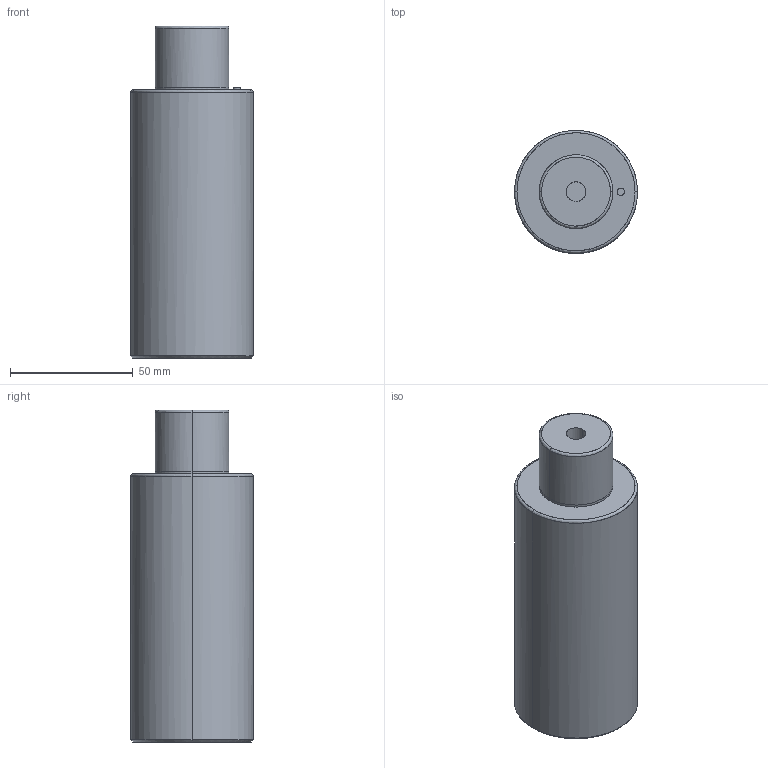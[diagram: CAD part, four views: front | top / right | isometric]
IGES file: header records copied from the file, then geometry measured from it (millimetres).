
Global section: file name: E:\UnigraphicsGraphicData\MISUMI_PRESS-PARTS\IGES\3d_gssr50-25_03954_r00.igs; native system: NX V5.0; preprocessor: UGS NX IGES V5.0; author: MISUMI; date: 20110105.160820; units: millimetre
Bounding box: 50 x 49.92 x 135 mm (x, y, z)
Surface area: 25088 mm2 (no closed solid volume)
Topology: 0 solids, 0 shells, 42 faces, 304 edges, 298 vertices
Faces by surface type: bspline 42
